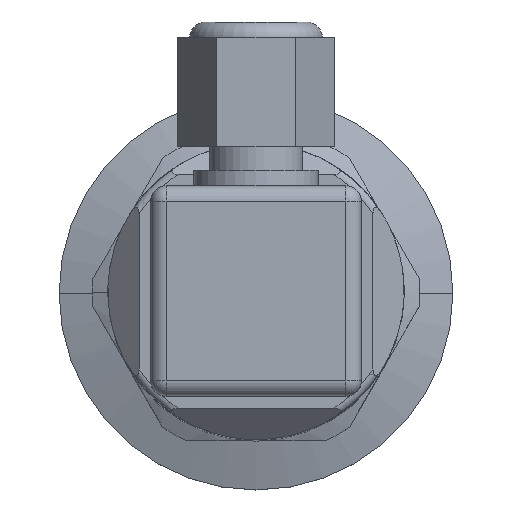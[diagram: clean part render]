
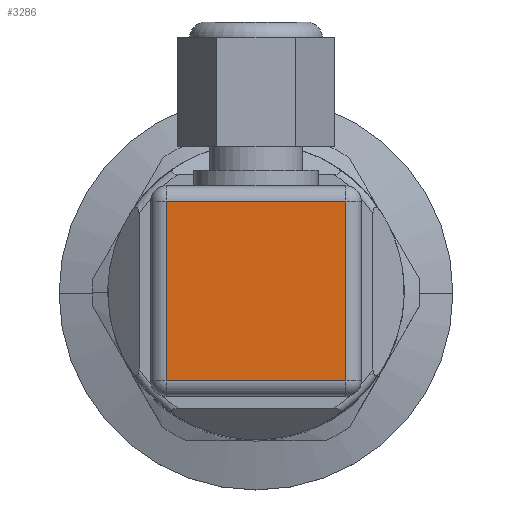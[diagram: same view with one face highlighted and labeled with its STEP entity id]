
A CAD part, top view. The second image highlights one B-rep face of the part: STEP entity #3286.
In plain terms, the highlighted planar face has unit normal (0, 0, 1) as drawn and (0, 1, 0) by its records, which use the part's own axes.
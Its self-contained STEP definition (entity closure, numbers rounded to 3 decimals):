
#115 = LINE ( 'NONE', #1493, #2793 ) ;
#131 = CARTESIAN_POINT ( 'NONE',  ( -39.413, 104.913, -3.75 ) ) ;
#532 = EDGE_CURVE ( 'NONE', #3378, #4000, #115, .T. ) ;
#681 = DIRECTION ( 'NONE',  ( -1., 0., 0. ) ) ;
#847 = VECTOR ( 'NONE', #681, 1000. ) ;
#944 = ORIENTED_EDGE ( 'NONE', *, *, #4089, .T. ) ;
#1154 = LINE ( 'NONE', #2856, #4187 ) ;
#1376 = ORIENTED_EDGE ( 'NONE', *, *, #532, .T. ) ;
#1476 = DIRECTION ( 'NONE',  ( 0., 0., 1. ) ) ;
#1492 = EDGE_CURVE ( 'NONE', #4000, #3905, #2781, .T. ) ;
#1493 = CARTESIAN_POINT ( 'NONE',  ( -39.413, 104.913, 7.75 ) ) ;
#1533 = CARTESIAN_POINT ( 'NONE',  ( -50.913, 104.913, -3.75 ) ) ;
#1766 = EDGE_LOOP ( 'NONE', ( #1376, #3059, #2050, #944 ) ) ;
#2050 = ORIENTED_EDGE ( 'NONE', *, *, #4193, .T. ) ;
#2152 = LINE ( 'NONE', #4059, #3651 ) ;
#2381 = VERTEX_POINT ( 'NONE', #5306 ) ;
#2400 = DIRECTION ( 'NONE',  ( 1., 0., 0. ) ) ;
#2634 = CARTESIAN_POINT ( 'NONE',  ( -62.413, 104.913, -3.75 ) ) ;
#2679 = CARTESIAN_POINT ( 'NONE',  ( -39.413, 104.913, 19.25 ) ) ;
#2781 = LINE ( 'NONE', #1533, #847 ) ;
#2793 = VECTOR ( 'NONE', #5344, 1000. ) ;
#2856 = CARTESIAN_POINT ( 'NONE',  ( -50.913, 104.913, 19.25 ) ) ;
#2938 = PLANE ( 'NONE',  #4401 ) ;
#2963 = FACE_OUTER_BOUND ( 'NONE', #1766, .T. ) ;
#2995 = DIRECTION ( 'NONE',  ( 1., 0., 0. ) ) ;
#3059 = ORIENTED_EDGE ( 'NONE', *, *, #1492, .T. ) ;
#3286 = ADVANCED_FACE ( 'NONE', ( #2963 ), #2938, .F. ) ;
#3378 = VERTEX_POINT ( 'NONE', #2679 ) ;
#3651 = VECTOR ( 'NONE', #1476, 1000. ) ;
#3905 = VERTEX_POINT ( 'NONE', #2634 ) ;
#4000 = VERTEX_POINT ( 'NONE', #131 ) ;
#4059 = CARTESIAN_POINT ( 'NONE',  ( -62.413, 104.913, 7.75 ) ) ;
#4089 = EDGE_CURVE ( 'NONE', #2381, #3378, #1154, .T. ) ;
#4187 = VECTOR ( 'NONE', #2400, 1000. ) ;
#4193 = EDGE_CURVE ( 'NONE', #3905, #2381, #2152, .T. ) ;
#4263 = CARTESIAN_POINT ( 'NONE',  ( -50.913, 104.913, 7.75 ) ) ;
#4401 = AXIS2_PLACEMENT_3D ( 'NONE', #4263, #5153, #2995 ) ;
#5153 = DIRECTION ( 'NONE',  ( 0., -1., 0. ) ) ;
#5306 = CARTESIAN_POINT ( 'NONE',  ( -62.413, 104.913, 19.25 ) ) ;
#5344 = DIRECTION ( 'NONE',  ( 0., 0., -1. ) ) ;
